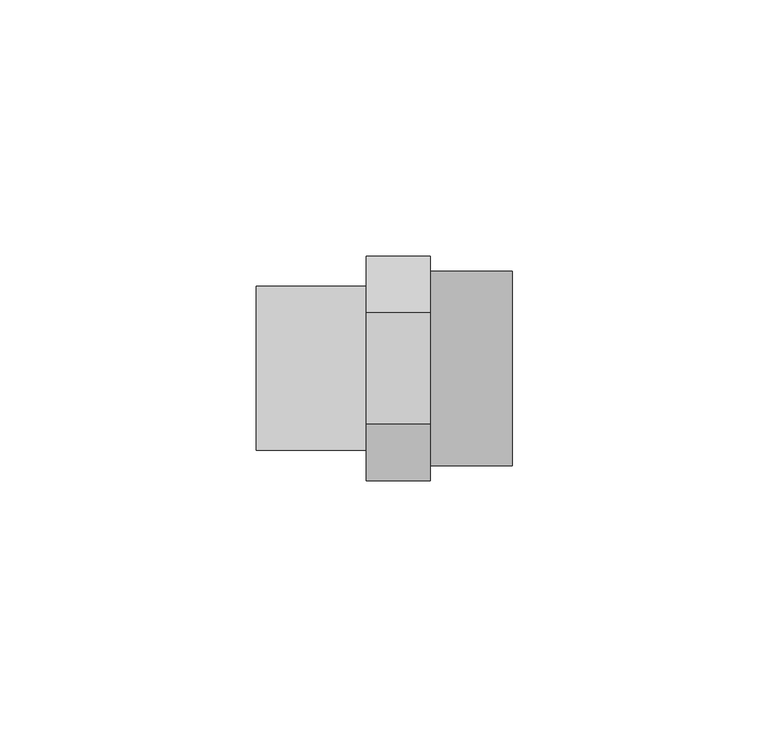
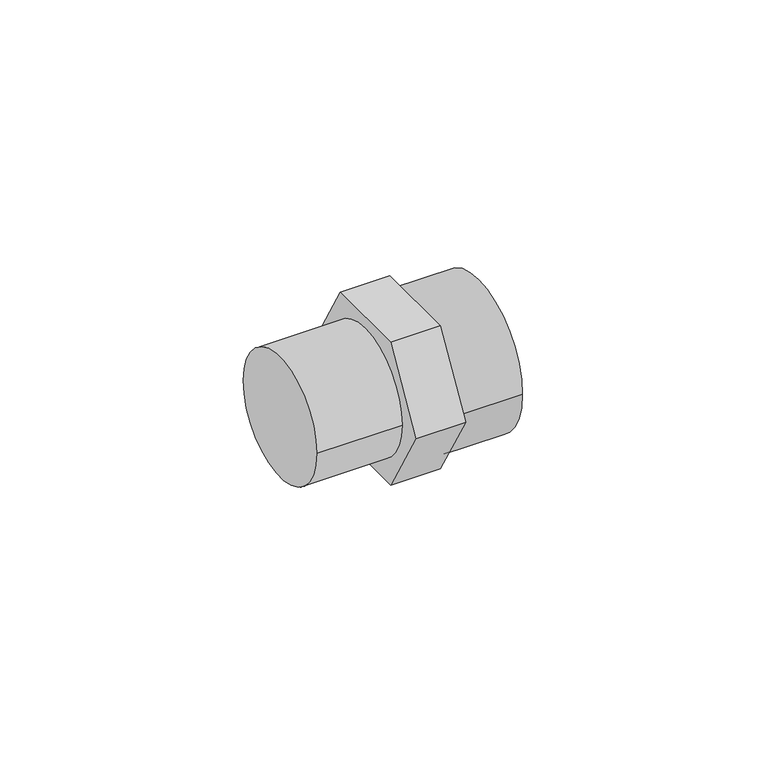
"""IFC4 building model written with IfcOpenShell, lengths in millimetres: pipe fitting geometry."""

from ifc_helpers import new_model, si_unit, point, frame, origin, origin_2d, place, context, project, spatial, polyline, circle_curve, trimmed, segment, composite_curve, outline, extrude, source, transform, mapped, element, save


def pipe_fitting_4d917673(model_context):
    return source(origin(), model_context, "Body", "SweptSolid", [
        extrude(outline(composite_curve([segment(trimmed(circle_curve(origin_2d(), 16.0), [point((16.0, 0.0))], [point((-16.0, 0.0))], False, "CARTESIAN"), True, "CONTINUOUS"), segment(trimmed(circle_curve(origin_2d(), 16.0), [point((-16.0, 0.0))], [point((16.0, 0.0))], False, "CARTESIAN"), True, "CONTINUOUS")], self_intersect=False)), frame((0.0, 0.0, 0.0), z_axis=(1.0, 0.0, 0.0), x_axis=(0.0, 1.0, 0.0)), (0.0, 0.0, 1.0), 21.5),
        extrude(outline(polyline([(-10.9696551, 19.0), (10.9696551, 19.0), (21.9393102, 0.0), (10.9696551, -19.0), (-10.9696551, -19.0), (-21.9393102, 0.0), (-10.9696551, 19.0)])), frame((21.5, 0.0, 0.0), z_axis=(1.0, 0.0, 0.0), x_axis=(0.0, 1.0, 0.0)), (0.0, 0.0, 1.0), 12.5),
        extrude(outline(composite_curve([segment(trimmed(circle_curve(origin_2d(), 19.0), [point((-19.0, 0.0))], [point((19.0, 0.0))], False, "CARTESIAN"), True, "CONTINUOUS"), segment(trimmed(circle_curve(origin_2d(), 19.0), [point((19.0, 0.0))], [point((-19.0, 0.0))], False, "CARTESIAN"), True, "CONTINUOUS")], self_intersect=False)), frame((34.0, 0.0, 0.0), z_axis=(1.0, 0.0, 0.0), x_axis=(0.0, 1.0, 0.0)), (0.0, 0.0, 1.0), 16.0),
    ])


if __name__ == "__main__":
    model = new_model("IFC4")
    model_context = context("Model", 3, world=origin())
    ifc_project = project(units=[si_unit("LENGTHUNIT", "METRE", prefix="MILLI")], contexts=[model_context])
    site = spatial("IfcSite", under=ifc_project)
    building = spatial("IfcBuilding", under=site)
    placement = place(None, origin())
    pipe_fitting_shape = pipe_fitting_4d917673(model_context)
    element("IfcPipeFitting", 1, at=placement, inside=building, context=model_context, shape_type="MappedRepresentation", body=[
        mapped(pipe_fitting_shape, transform((0.0, 0.0, 0.0), x_axis=(1.0, 0.0, 0.0), y_axis=(0.0, 1.0, 0.0), z_axis=(0.0, 0.0, 1.0))),
    ])
    save(model, "model.ifc")
